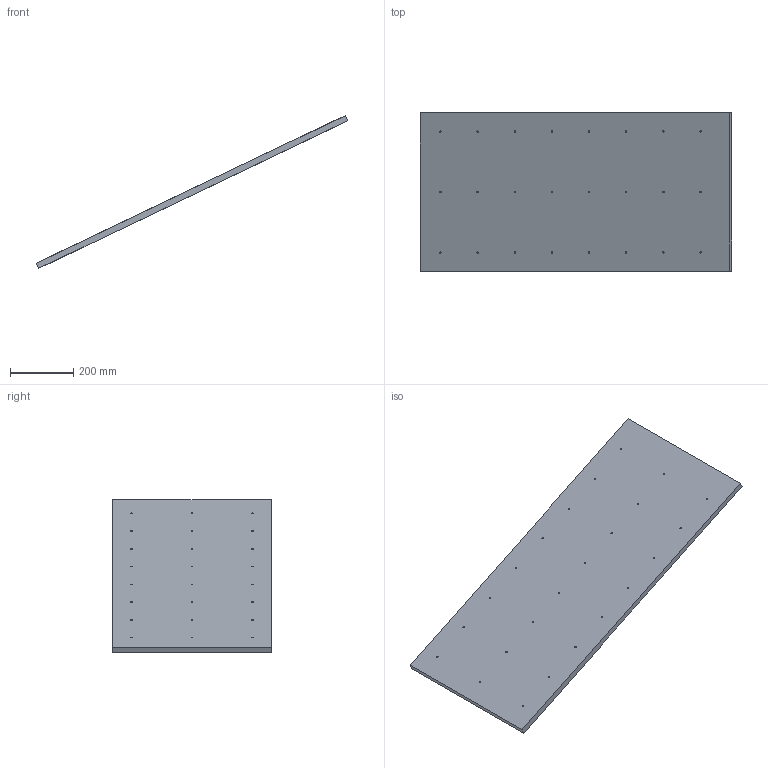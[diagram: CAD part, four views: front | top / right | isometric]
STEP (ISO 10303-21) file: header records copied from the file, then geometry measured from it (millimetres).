
FILE_DESCRIPTION(('Open CASCADE Model'),'2;1');
FILE_NAME('Open CASCADE Shape Model','2026-09-27T16:12:29',('Author'),( 'Open CASCADE'),'Open CASCADE STEP processor 7.9','Open CASCADE 7.9' ,'Unknown');
FILE_SCHEMA(('AUTOMOTIVE_DESIGN { 1 0 10303 214 1 1 1 1 }'));
Length unit declared in the file: millimetre
Products named in the file (1): Open CASCADE STEP translator 7.9 5
Bounding box: 982 x 500 x 482 mm (x, y, z)
Volume: 9711750.1 mm3; surface area: 1142065.1 mm2
Topology: 1 solids, 1 shells, 30 faces, 84 edges, 56 vertices
Faces by surface type: cylinder 24, plane 6
Full cylindrical faces by diameter (mm): 4.5 x24
Entity records: 2266 total; most frequent: CARTESIAN_POINT 483, DIRECTION 338, ORIENTED_EDGE 168, PCURVE 168, DEFINITIONAL_REPRESENTATION 168, LINE 156, VECTOR 156, EDGE_CURVE 84
